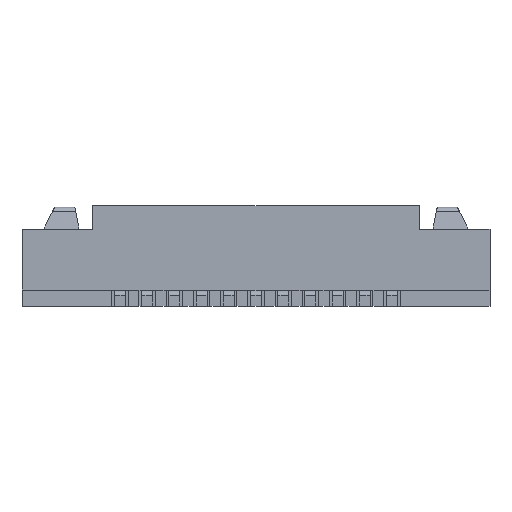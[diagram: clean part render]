
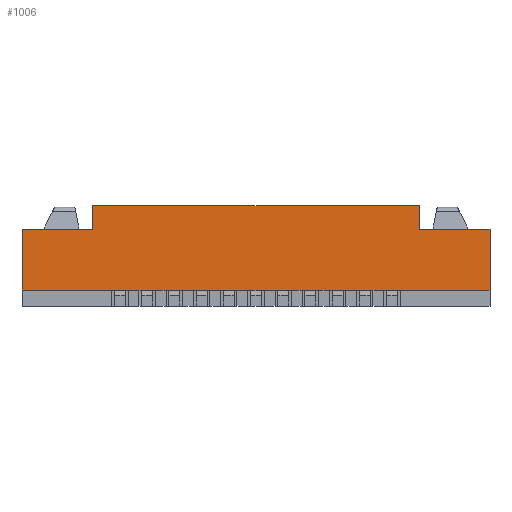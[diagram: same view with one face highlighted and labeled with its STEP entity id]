
A CAD part, front view. The second image highlights one B-rep face of the part: STEP entity #1006.
In plain terms, the highlighted planar face has unit normal (0, -1, 0).
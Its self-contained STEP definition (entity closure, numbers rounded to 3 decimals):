
#399=CARTESIAN_POINT('Vertex',(-3.,-2.4,1.42)) ;
#402=CARTESIAN_POINT('Line Origine',(-3.,-2.4,1.635)) ;
#406=CARTESIAN_POINT('Vertex',(-3.,-2.4,1.85)) ;
#944=CARTESIAN_POINT('Axis2P3D Location',(0.,-2.4,0.3)) ;
#949=CARTESIAN_POINT('Line Origine',(-3.65,-2.4,1.42)) ;
#953=CARTESIAN_POINT('Vertex',(-4.3,-2.4,1.42)) ;
#956=CARTESIAN_POINT('Line Origine',(-4.3,-2.4,0.86)) ;
#960=CARTESIAN_POINT('Vertex',(-4.3,-2.4,0.3)) ;
#963=CARTESIAN_POINT('Line Origine',(0.,-2.4,0.3)) ;
#967=CARTESIAN_POINT('Vertex',(4.3,-2.4,0.3)) ;
#970=CARTESIAN_POINT('Line Origine',(4.3,-2.4,0.86)) ;
#974=CARTESIAN_POINT('Vertex',(4.3,-2.4,1.42)) ;
#977=CARTESIAN_POINT('Line Origine',(3.65,-2.4,1.42)) ;
#981=CARTESIAN_POINT('Vertex',(3.,-2.4,1.42)) ;
#984=CARTESIAN_POINT('Line Origine',(3.,-2.4,1.635)) ;
#988=CARTESIAN_POINT('Vertex',(3.,-2.4,1.85)) ;
#991=CARTESIAN_POINT('Line Origine',(0.,-2.4,1.85)) ;
#403=DIRECTION('Vector Direction',(0.,0.,-1.)) ;
#945=DIRECTION('Axis2P3D Direction',(0.,1.,0.)) ;
#946=DIRECTION('Axis2P3D XDirection',(0.,0.,1.)) ;
#950=DIRECTION('Vector Direction',(1.,0.,0.)) ;
#957=DIRECTION('Vector Direction',(0.,0.,1.)) ;
#964=DIRECTION('Vector Direction',(1.,0.,0.)) ;
#971=DIRECTION('Vector Direction',(0.,0.,1.)) ;
#978=DIRECTION('Vector Direction',(-1.,0.,0.)) ;
#985=DIRECTION('Vector Direction',(0.,0.,-1.)) ;
#992=DIRECTION('Vector Direction',(1.,0.,0.)) ;
#947=AXIS2_PLACEMENT_3D('Plane Axis2P3D',#944,#945,#946) ;
#997=ORIENTED_EDGE('',*,*,#408,.T.) ;
#998=ORIENTED_EDGE('',*,*,#955,.F.) ;
#999=ORIENTED_EDGE('',*,*,#962,.T.) ;
#1000=ORIENTED_EDGE('',*,*,#969,.T.) ;
#1001=ORIENTED_EDGE('',*,*,#976,.F.) ;
#1002=ORIENTED_EDGE('',*,*,#983,.T.) ;
#1003=ORIENTED_EDGE('',*,*,#990,.F.) ;
#1004=ORIENTED_EDGE('',*,*,#995,.F.) ;
#404=VECTOR('Line Direction',#403,1.) ;
#951=VECTOR('Line Direction',#950,1.) ;
#958=VECTOR('Line Direction',#957,1.) ;
#965=VECTOR('Line Direction',#964,1.) ;
#972=VECTOR('Line Direction',#971,1.) ;
#979=VECTOR('Line Direction',#978,1.) ;
#986=VECTOR('Line Direction',#985,1.) ;
#993=VECTOR('Line Direction',#992,1.) ;
#1006=ADVANCED_FACE('\X2\96F64EF651E04F554F53\X0\',(#1005),#948,.F.) ;
#408=EDGE_CURVE('',#407,#400,#405,.T.) ;
#955=EDGE_CURVE('',#954,#400,#952,.T.) ;
#962=EDGE_CURVE('',#954,#961,#959,.F.) ;
#969=EDGE_CURVE('',#961,#968,#966,.T.) ;
#976=EDGE_CURVE('',#975,#968,#973,.F.) ;
#983=EDGE_CURVE('',#975,#982,#980,.T.) ;
#990=EDGE_CURVE('',#989,#982,#987,.T.) ;
#995=EDGE_CURVE('',#407,#989,#994,.T.) ;
#996=EDGE_LOOP('',(#997,#998,#999,#1000,#1001,#1002,#1003,#1004)) ;
#1005=FACE_OUTER_BOUND('',#996,.T.) ;
#405=LINE('Line',#402,#404) ;
#952=LINE('Line',#949,#951) ;
#959=LINE('Line',#956,#958) ;
#966=LINE('Line',#963,#965) ;
#973=LINE('Line',#970,#972) ;
#980=LINE('Line',#977,#979) ;
#987=LINE('Line',#984,#986) ;
#994=LINE('Line',#991,#993) ;
#948=PLANE('Plane',#947) ;
#400=VERTEX_POINT('',#399) ;
#407=VERTEX_POINT('',#406) ;
#954=VERTEX_POINT('',#953) ;
#961=VERTEX_POINT('',#960) ;
#968=VERTEX_POINT('',#967) ;
#975=VERTEX_POINT('',#974) ;
#982=VERTEX_POINT('',#981) ;
#989=VERTEX_POINT('',#988) ;
